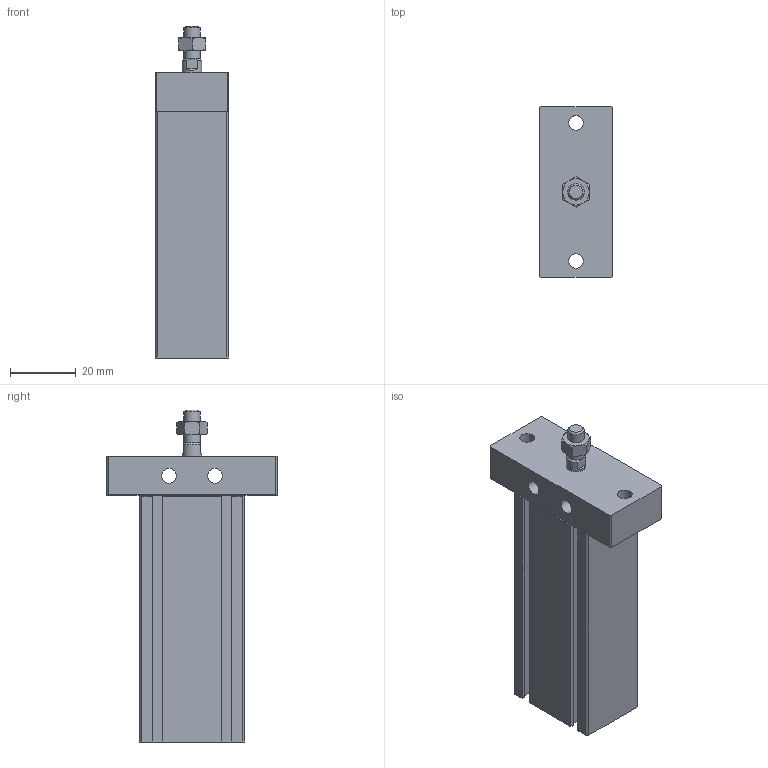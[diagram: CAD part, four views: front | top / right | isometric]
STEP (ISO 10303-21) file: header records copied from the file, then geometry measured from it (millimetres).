
FILE_DESCRIPTION((''),'2;1');
FILE_NAME('J:\3D電子目錄\氣缸\ND\ND\ND16-FB\ND16x50-FB.stp','2008-03-12T17:06:20',('66-2f-008'),(''),'Autodesk Inventor 11','Autodesk Inventor 11','');
FILE_SCHEMA(('AUTOMOTIVE_DESIGN { 1 0 10303 214 1 1 1 1 }'));
Length unit declared in the file: millimetre
Products named in the file (1): ND16-FB
Bounding box: 22.4 x 52 x 101 mm (x, y, z)
Volume: 59184.3 mm3; surface area: 18073.9 mm2
Topology: 2 solids, 2 shells, 130 faces, 310 edges, 195 vertices
Faces by surface type: plane 83, cone 22, bspline 14, cylinder 10, torus 1
Full cylindrical faces by diameter (mm): 1.5 x2, 4.5 x2, 5 x2, 6 x1, 10 x1, 18 x1, 19 x1
Entity records: 3636 total; most frequent: CARTESIAN_POINT 833, ORIENTED_EDGE 550, DIRECTION 542, EDGE_CURVE 275, VERTEX_POINT 189, VECTOR 186, LINE 186, AXIS2_PLACEMENT_3D 178
